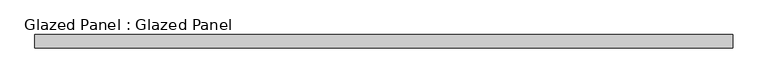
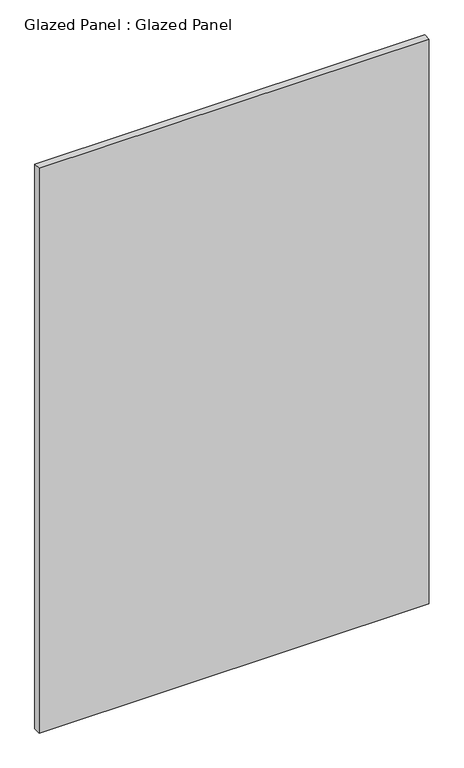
"""IFC4 building model written with IfcOpenShell, lengths in millimetres: plate geometry, Glazed Panel : Glazed Panel."""

from ifc_helpers import new_model, si_unit, origin, origin_with_axes, place, context, project, spatial, polyline, outline, extrude, source, transform, mapped, element, save


def glazed_panel_glazed_panel_ed21d652(model_context):
    return source(origin(), model_context, "Body", "SweptSolid", [
        extrude(outline(polyline([(665.95625, 38.1), (-665.95625, 38.1), (-665.95625, 63.5), (665.95625, 63.5), (665.95625, 38.1)])), origin_with_axes(), (0.0, 0.0, 1.0), 2038.35),
    ])


if __name__ == "__main__":
    model = new_model("IFC4")
    model_context = context("Model", 3, world=origin())
    ifc_project = project(units=[si_unit("LENGTHUNIT", "METRE", prefix="MILLI")], contexts=[model_context])
    site = spatial("IfcSite", under=ifc_project)
    building = spatial("IfcBuilding", under=site)
    placement = place(None, origin())
    glazed_panel_glazed_panel_shape = glazed_panel_glazed_panel_ed21d652(model_context)
    element("IfcPlate", 1, ObjectType="Glazed Panel : Glazed Panel", at=placement, inside=building, context=model_context, shape_type="MappedRepresentation", body=[
        mapped(glazed_panel_glazed_panel_shape, transform((0.0, 0.0, 0.0), x_axis=(1.0, 0.0, 0.0), y_axis=(0.0, 1.0, 0.0), z_axis=(0.0, 0.0, 1.0))),
    ])
    save(model, "model.ifc")
